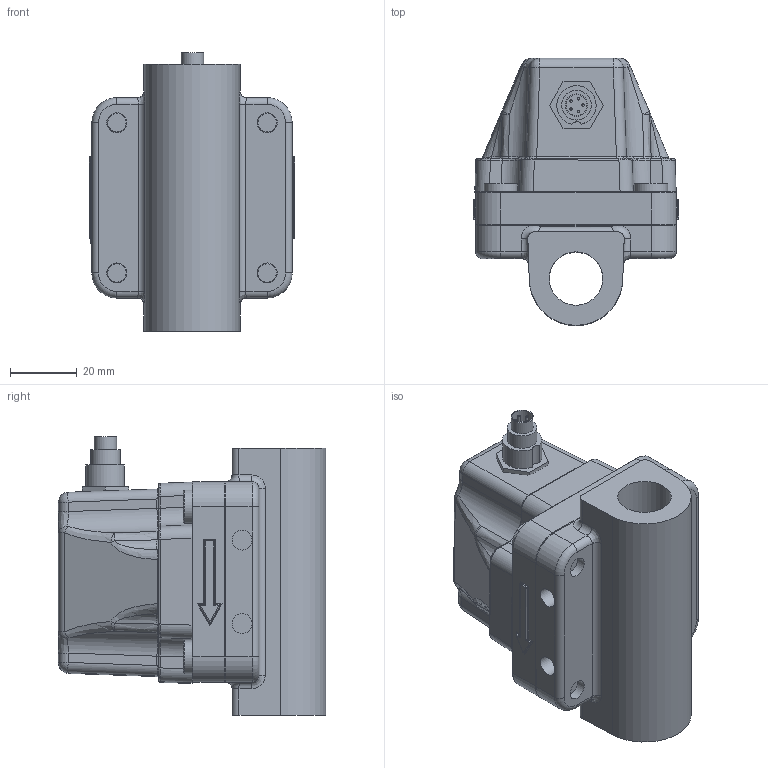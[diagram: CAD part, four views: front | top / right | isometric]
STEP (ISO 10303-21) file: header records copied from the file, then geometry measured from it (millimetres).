
FILE_DESCRIPTION(/* description */ ('Alibre Inc.'),/* implementation_level */ '2;1');
FILE_NAME(/* name */ 'export0',/* time_stamp */ '2012-11-14T15:49:40+01:00',/* author */ (''),/* organization */ (''),/* preprocessor_version */ 'ST-DEVELOPER v14',/* originating_system */ 'Alibre',/* authorisation */ '');
FILE_SCHEMA (('CONFIG_CONTROL_DESIGN'));
Length unit declared in the file: centimetre
Products named in the file (6): ID_1; ID_2; ID_3; ID_4; ID_5
Bounding box: 61.5 x 80 x 83.5 mm (x, y, z)
Volume: 113591.5 mm3; surface area: 51987.1 mm2
Topology: 8 solids, 8 shells, 677 faces, 1509 edges, 872 vertices
Faces by surface type: cylinder 216, plane 205, bspline 126, cone 60, sphere 38, torus 32
Full cylindrical faces by diameter (mm): 0.75 x5, 3.198 x4, 6 x18, 6.2 x1, 6.4 x4, 6.7 x1, 8.9 x1, 9.6 x4, 10 x4, 11 x4, 16 x1, 17.2 x2, 21.1 x2
Entity records: 41053 total; most frequent: CARTESIAN_POINT 28253, ORIENTED_EDGE 2524, DIRECTION 2352, EDGE_CURVE 1262, AXIS2_PLACEMENT_3D 1037, VERTEX_POINT 764, EDGE_LOOP 706, FACE_BOUND 706
